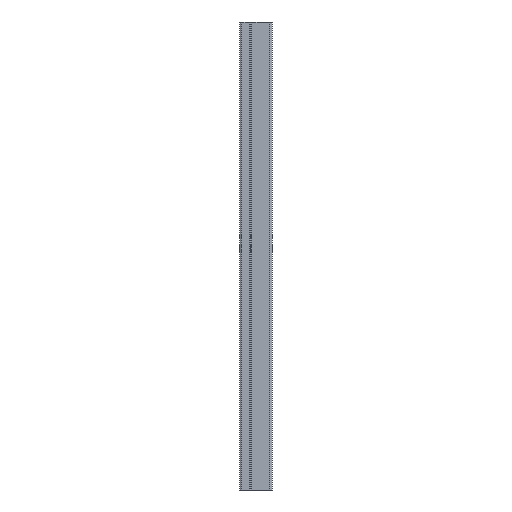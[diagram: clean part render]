
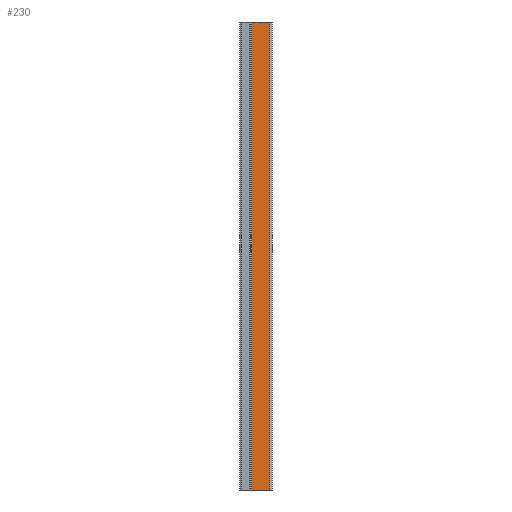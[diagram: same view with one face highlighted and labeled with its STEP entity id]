
A CAD part, left-side view. The second image highlights one B-rep face of the part: STEP entity #230.
In plain terms, the highlighted planar face has unit normal (-1, 0, 0).
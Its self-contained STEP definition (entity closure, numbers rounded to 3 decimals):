
#6 = DIRECTION ( 'NONE',  ( 0., 0., -1. ) ) ;
#13 = ORIENTED_EDGE ( 'NONE', *, *, #873, .F. ) ;
#50 = VERTEX_POINT ( 'NONE', #582 ) ;
#116 = VECTOR ( 'NONE', #500, 1000. ) ;
#200 = DIRECTION ( 'NONE',  ( 0., 0., 1. ) ) ;
#202 = CARTESIAN_POINT ( 'NONE',  ( -12.5, 22.5, -250. ) ) ;
#230 = ADVANCED_FACE ( 'NONE', ( #572 ), #711, .F. ) ;
#270 = EDGE_CURVE ( 'NONE', #299, #562, #930, .T. ) ;
#299 = VERTEX_POINT ( 'NONE', #708 ) ;
#306 = ORIENTED_EDGE ( 'NONE', *, *, #680, .T. ) ;
#347 = LINE ( 'NONE', #637, #350 ) ;
#350 = VECTOR ( 'NONE', #200, 1000. ) ;
#388 = DIRECTION ( 'NONE',  ( 0., -1., 0. ) ) ;
#454 = LINE ( 'NONE', #901, #896 ) ;
#493 = DIRECTION ( 'NONE',  ( 0., 1., 0. ) ) ;
#500 = DIRECTION ( 'NONE',  ( 0., -1., 0. ) ) ;
#548 = EDGE_LOOP ( 'NONE', ( #916, #306, #13, #705 ) ) ;
#562 = VERTEX_POINT ( 'NONE', #690 ) ;
#572 = FACE_OUTER_BOUND ( 'NONE', #548, .T. ) ;
#582 = CARTESIAN_POINT ( 'NONE',  ( -12.5, 9.5, 250. ) ) ;
#583 = CARTESIAN_POINT ( 'NONE',  ( -12.5, 9.5, 250. ) ) ;
#637 = CARTESIAN_POINT ( 'NONE',  ( -12.5, -9.5, 250. ) ) ;
#680 = EDGE_CURVE ( 'NONE', #562, #843, #347, .T. ) ;
#690 = CARTESIAN_POINT ( 'NONE',  ( -12.5, -9.5, -250. ) ) ;
#705 = ORIENTED_EDGE ( 'NONE', *, *, #741, .T. ) ;
#708 = CARTESIAN_POINT ( 'NONE',  ( -12.5, 9.5, -250. ) ) ;
#711 = PLANE ( 'NONE',  #818 ) ;
#729 = CARTESIAN_POINT ( 'NONE',  ( -12.5, -9.5, 250. ) ) ;
#741 = EDGE_CURVE ( 'NONE', #50, #299, #882, .T. ) ;
#782 = DIRECTION ( 'NONE',  ( 1., 0., 0. ) ) ;
#805 = VECTOR ( 'NONE', #6, 1000. ) ;
#818 = AXIS2_PLACEMENT_3D ( 'NONE', #925, #782, #493 ) ;
#843 = VERTEX_POINT ( 'NONE', #729 ) ;
#873 = EDGE_CURVE ( 'NONE', #50, #843, #454, .T. ) ;
#882 = LINE ( 'NONE', #583, #805 ) ;
#896 = VECTOR ( 'NONE', #388, 1000. ) ;
#901 = CARTESIAN_POINT ( 'NONE',  ( -12.5, 22.5, 250. ) ) ;
#916 = ORIENTED_EDGE ( 'NONE', *, *, #270, .T. ) ;
#925 = CARTESIAN_POINT ( 'NONE',  ( -12.5, 22.5, 250. ) ) ;
#930 = LINE ( 'NONE', #202, #116 ) ;
